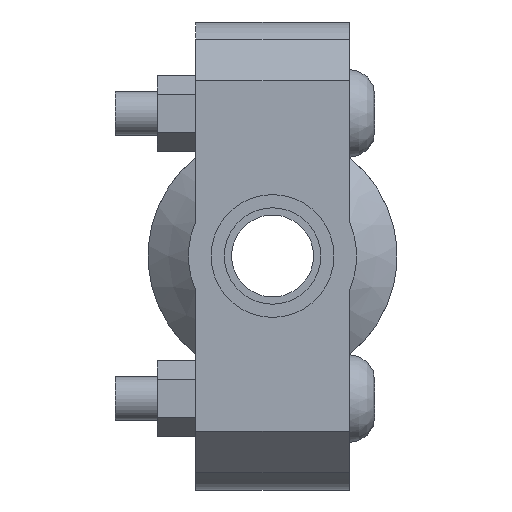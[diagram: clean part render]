
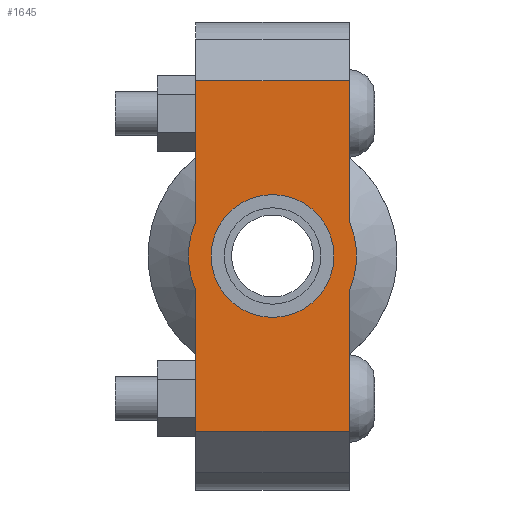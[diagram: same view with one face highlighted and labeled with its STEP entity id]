
A CAD part, left-side view. The second image highlights one B-rep face of the part: STEP entity #1645.
In plain terms, the highlighted planar face has unit normal (-1, 0, 0) as drawn and (0, 0, 1) by its records, which use the part's own axes.
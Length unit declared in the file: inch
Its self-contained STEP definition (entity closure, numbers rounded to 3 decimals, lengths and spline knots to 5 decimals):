
#200=LINE('',#2845,#297);
#215=LINE('',#2904,#312);
#223=LINE('',#2934,#320);
#225=LINE('',#2937,#322);
#226=LINE('',#2942,#323);
#227=LINE('',#2943,#324);
#297=VECTOR('',#2309,0.3937);
#312=VECTOR('',#2344,0.3937);
#320=VECTOR('',#2364,0.3937);
#322=VECTOR('',#2368,0.3937);
#323=VECTOR('',#2373,0.3937);
#324=VECTOR('',#2374,0.3937);
#388=FACE_BOUND('',#565,.T.);
#456=FACE_OUTER_BOUND('',#564,.T.);
#564=EDGE_LOOP('',(#1346,#1347,#1348,#1349,#1350,#1351,#1352,#1353));
#565=EDGE_LOOP('',(#1354));
#647=CIRCLE('',#1873,0.525);
#671=CIRCLE('',#1925,0.719);
#672=CIRCLE('',#1926,0.719);
#743=VERTEX_POINT('',#2671);
#784=VERTEX_POINT('',#2842);
#785=VERTEX_POINT('',#2844);
#806=VERTEX_POINT('',#2899);
#807=VERTEX_POINT('',#2903);
#816=VERTEX_POINT('',#2929);
#817=VERTEX_POINT('',#2933);
#818=VERTEX_POINT('',#2939);
#819=VERTEX_POINT('',#2941);
#907=EDGE_CURVE('',#743,#743,#647,.T.);
#964=EDGE_CURVE('',#785,#784,#200,.T.);
#989=EDGE_CURVE('',#807,#806,#215,.T.);
#1002=EDGE_CURVE('',#817,#816,#223,.T.);
#1004=EDGE_CURVE('',#817,#784,#225,.T.);
#1005=EDGE_CURVE('',#816,#818,#671,.T.);
#1006=EDGE_CURVE('',#818,#819,#226,.T.);
#1007=EDGE_CURVE('',#807,#819,#227,.T.);
#1008=EDGE_CURVE('',#806,#785,#672,.T.);
#1346=ORIENTED_EDGE('',*,*,#1004,.F.);
#1347=ORIENTED_EDGE('',*,*,#1002,.T.);
#1348=ORIENTED_EDGE('',*,*,#1005,.T.);
#1349=ORIENTED_EDGE('',*,*,#1006,.T.);
#1350=ORIENTED_EDGE('',*,*,#1007,.F.);
#1351=ORIENTED_EDGE('',*,*,#989,.T.);
#1352=ORIENTED_EDGE('',*,*,#1008,.T.);
#1353=ORIENTED_EDGE('',*,*,#964,.T.);
#1354=ORIENTED_EDGE('',*,*,#907,.T.);
#1485=PLANE('',#1924);
#1645=ADVANCED_FACE('',(#456,#388),#1485,.T.);
#1873=AXIS2_PLACEMENT_3D('',#2673,#2199,#2200);
#1924=AXIS2_PLACEMENT_3D('',#2938,#2369,#2370);
#1925=AXIS2_PLACEMENT_3D('',#2940,#2371,#2372);
#1926=AXIS2_PLACEMENT_3D('',#2944,#2375,#2376);
#2199=DIRECTION('center_axis',(0.,0.,-1.));
#2200=DIRECTION('ref_axis',(-1.,0.,0.));
#2309=DIRECTION('',(-1.,0.,0.));
#2344=DIRECTION('',(-1.,0.,0.));
#2364=DIRECTION('',(1.,0.,0.));
#2368=DIRECTION('',(0.,1.,0.));
#2369=DIRECTION('center_axis',(0.,0.,1.));
#2370=DIRECTION('ref_axis',(1.,0.,0.));
#2371=DIRECTION('center_axis',(0.,0.,1.));
#2372=DIRECTION('ref_axis',(-1.,0.,0.));
#2373=DIRECTION('',(1.,0.,0.));
#2374=DIRECTION('',(0.,-1.,0.));
#2375=DIRECTION('center_axis',(0.,0.,1.));
#2376=DIRECTION('ref_axis',(-1.,0.,0.));
#2671=CARTESIAN_POINT('',(0.525,0.,0.875));
#2673=CARTESIAN_POINT('Origin',(0.,0.,0.875));
#2842=CARTESIAN_POINT('',(-1.5,0.656,0.875));
#2844=CARTESIAN_POINT('',(-0.29432,0.656,0.875));
#2845=CARTESIAN_POINT('',(2.,0.656,0.875));
#2899=CARTESIAN_POINT('',(0.29432,0.656,0.875));
#2903=CARTESIAN_POINT('',(1.5,0.656,0.875));
#2904=CARTESIAN_POINT('',(2.,0.656,0.875));
#2929=CARTESIAN_POINT('',(-0.29432,-0.656,0.875));
#2933=CARTESIAN_POINT('',(-1.5,-0.656,0.875));
#2934=CARTESIAN_POINT('',(-2.,-0.656,0.875));
#2937=CARTESIAN_POINT('',(-1.5,0.328,0.875));
#2938=CARTESIAN_POINT('Origin',(0.,0.,
0.875));
#2939=CARTESIAN_POINT('',(0.29432,-0.656,0.875));
#2940=CARTESIAN_POINT('Origin',(0.,0.,0.875));
#2941=CARTESIAN_POINT('',(1.5,-0.656,0.875));
#2942=CARTESIAN_POINT('',(-2.,-0.656,0.875));
#2943=CARTESIAN_POINT('',(1.5,-0.328,0.875));
#2944=CARTESIAN_POINT('Origin',(0.,0.,0.875));
